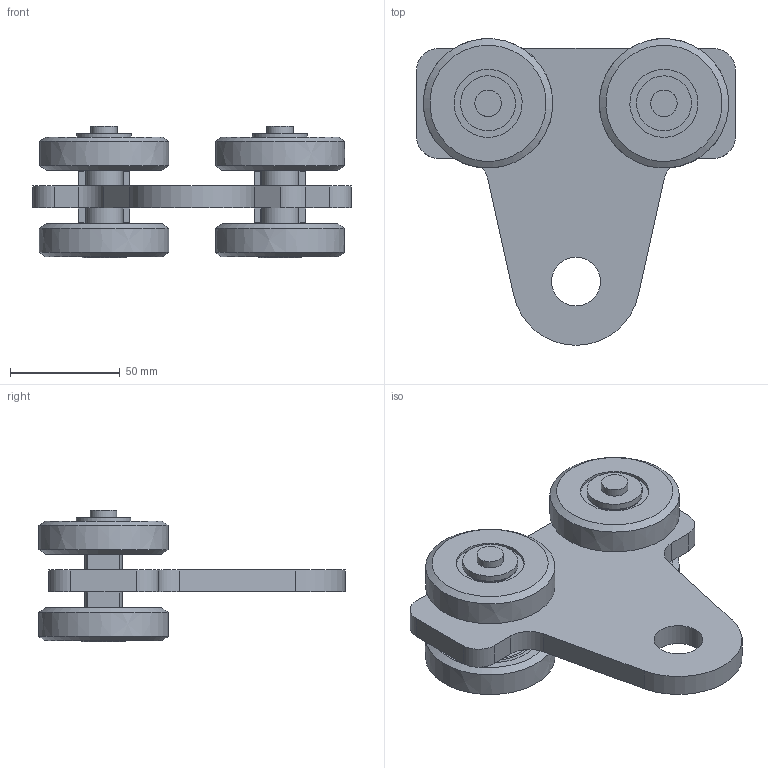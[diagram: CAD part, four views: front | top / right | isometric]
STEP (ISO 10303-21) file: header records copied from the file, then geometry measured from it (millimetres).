
FILE_DESCRIPTION(/* description */ ('Brennteil'),/* implementation_level */ '2;1');
FILE_NAME(/* name */ 'Q:\sge-ma\Produktmanagement-STB\STB\Workspace\stp\010336841.stp',/* time_stamp */ '2016-07-14T10:59:43+02:00',/* author */ ('avschreier'),/* organization */ (''),/* preprocessor_version */ 'ST-DEVELOPER v16.1',/* originating_system */ 'Autodesk Inventor 2016',/* authorisation */ '');
FILE_SCHEMA (('AUTOMOTIVE_DESIGN { 1 0 10303 214 3 1 1 }'));
Length unit declared in the file: millimetre
Products named in the file (8): 000302044; 000302081; 337000287; DIN_625-6203_ZZ_en; 000303241; 000302018; DIN_1440-12_en; 010336841
Assembly tree (19 placements, depth 3):
  010336841
    000302044
    000302081  x8
    000303241  x4
      337000287
      DIN_625-6203_ZZ_en
    000302018  x2
    DIN_1440-12_en  x2
Bounding box: 145 x 139.49 x 60 mm (x, y, z)
Volume: 266869 mm3; surface area: 108991.4 mm2
Topology: 21 solids, 25 shells, 417 faces, 1163 edges, 768 vertices
Faces by surface type: plane 201, cylinder 94, torus 72, sphere 28, cone 18, bspline 4
Full cylindrical faces by diameter (mm): 12 x4, 16.9 x2, 17 x4, 22 x2, 22.2 x1, 24.36 x16, 25 x2, 31 x4, 32.64 x16, 40 x8
Entity records: 4381 total; most frequent: CARTESIAN_POINT 1377, DIRECTION 600, ORIENTED_EDGE 538, EDGE_CURVE 269, AXIS2_PLACEMENT_3D 245, VERTEX_POINT 194, EDGE_LOOP 173, ADVANCED_FACE 117
